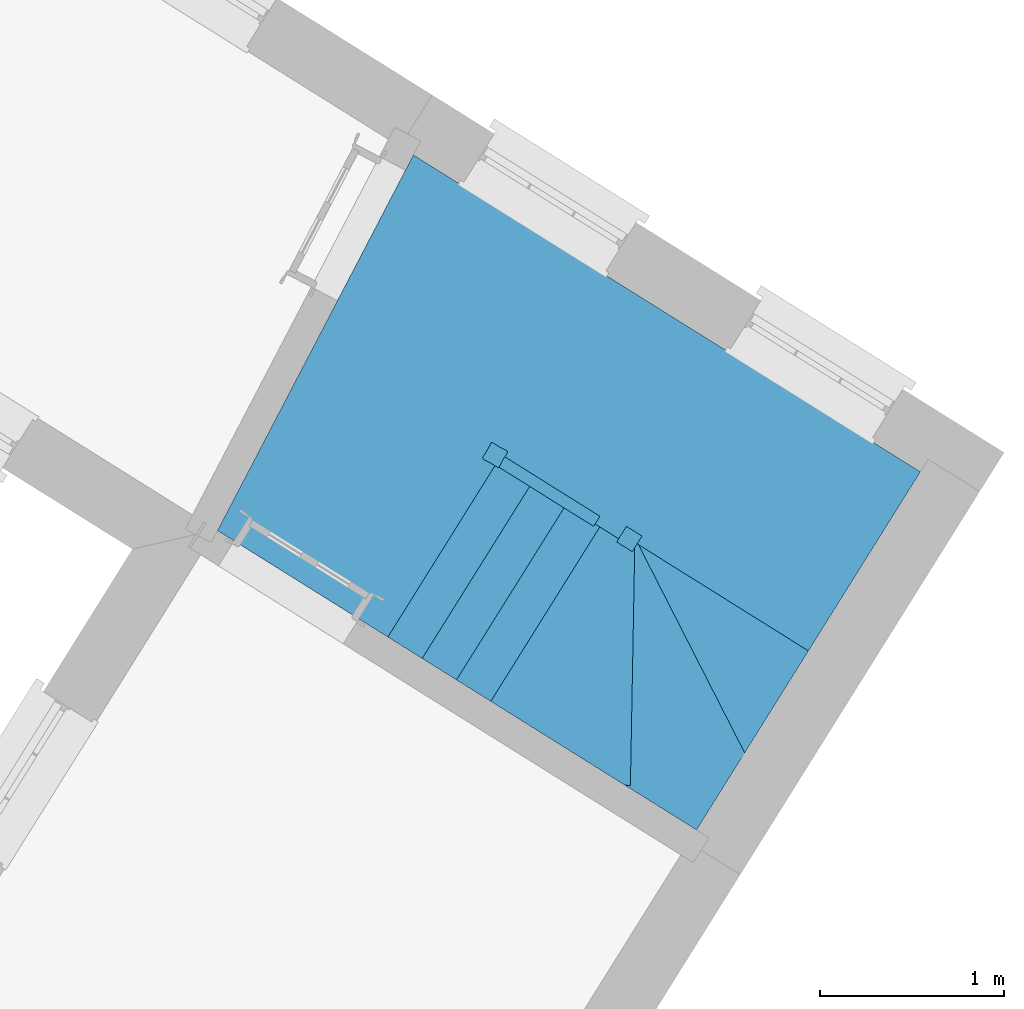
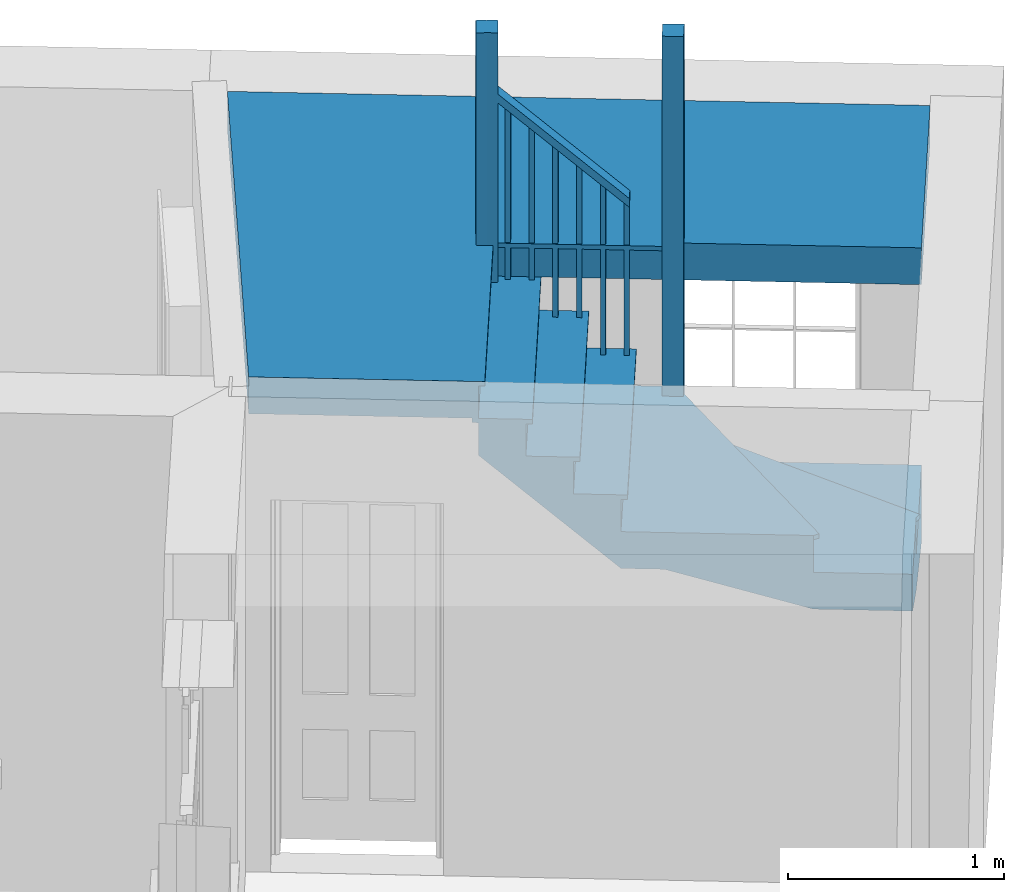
# One storey, part 4 of 4: 1 stair.
"""IFC4 building model written with IfcOpenShell, lengths in metres."""

from ifc_helpers import new_model, si_unit, frame, origin, origin_with_axes, place, context, subcontext, project, spatial, faceted_brep, element, save


model = new_model("IFC4")

# Units and contexts
model_context = context("Model", 3, world=origin_with_axes())
body_context = subcontext(model_context, "Body", "Model", "MODEL_VIEW")
ifc_project = project(units=[si_unit("PLANEANGLEUNIT", "RADIAN"), si_unit("MASSUNIT", "GRAM", prefix="KILO"), si_unit("FORCEUNIT", "NEWTON", prefix="KILO"), si_unit("LENGTHUNIT", "METRE"), si_unit("AREAUNIT", "SQUARE_METRE"), si_unit("VOLUMEUNIT", "CUBIC_METRE")], contexts=[model_context, model_context])

# Sites, building, storey
site_1_placement = place(None, origin_with_axes())
site_1 = spatial("IfcSite", under=ifc_project, at=site_1_placement, Name="Tamar")
site_2_placement = place(site_1_placement, origin_with_axes())
site_2 = spatial("IfcSite", under=site_1, at=site_2_placement, Name="Site plot-3", CompositionType="ELEMENT")
building_placement = place(None, origin_with_axes())
building = spatial("IfcBuilding", under=site_2, at=building_placement, Name="Building plot-3", CompositionType="ELEMENT")
storey_placement = place(None, frame((0.0, 0.0, 27.8), z_axis=(0.0, 0.0, 1.0), x_axis=(1.0, 0.0, 0.0)))
storey = spatial("IfcBuildingStorey", under=building, at=storey_placement, Name="plot-3 1", CompositionType="ELEMENT", Elevation=27.8)

# Stair
stair_placement = place(None, origin())
element("IfcStair", 1, at=stair_placement, inside=storey, Name="Stair", PredefinedType="NOTDEFINED", context=body_context, shape_type="Brep", body=[
    faceted_brep([(217.91361, 286.498894, 30.292308), (216.895579, 287.029978, 30.292308), (216.895579, 287.029978, 30.5), (217.91361, 286.498894, 30.5)], [[[0, 1, 2, 3]], [[1, 0, 3, 2]]]),
    faceted_brep([(217.93905, 286.482994, 30.475), (217.93905, 286.482994, 30.5), (217.91361, 286.498894, 30.475), (217.91361, 286.498894, 30.5)], [[[0, 1, 2]], [[1, 0, 2]], [[2, 1, 3]], [[1, 2, 3]]]),
    faceted_brep([(217.934815, 286.431438, 31.7), (217.981067, 286.520099, 31.7), (217.892406, 286.566351, 31.7), (217.846154, 286.47769, 31.7), (217.846154, 286.47769, 30.5), (217.892406, 286.566351, 30.5), (217.981067, 286.520099, 30.5), (217.934815, 286.431438, 30.5)], [[[0, 1, 2, 3]], [[4, 5, 6, 7]], [[7, 6, 1, 0]], [[6, 5, 2, 1]], [[5, 4, 3, 2]], [[4, 7, 0, 3]]]),
    faceted_brep([(217.91361, 286.498894, 30.5), (216.895579, 287.029978, 30.5), (216.404283, 286.088215, 30.5), (217.305017, 285.525215, 30.5), (217.305017, 285.525215, 30.292308), (216.404283, 286.088215, 30.292308), (216.895579, 287.029978, 30.292308), (217.91361, 286.498894, 30.292308)], [[[0, 1, 2, 3]], [[4, 5, 6, 7]], [[7, 6, 1, 0]], [[6, 5, 2, 1]], [[5, 4, 3, 2]], [[4, 7, 0, 3]]]),
    faceted_brep([(217.305017, 285.525215, 30.475), (217.330456, 285.509315, 30.475), (217.305017, 285.525215, 30.5), (217.93905, 286.482994, 30.475), (217.91361, 286.498894, 30.475), (217.91361, 286.498894, 30.5), (217.330456, 285.509315, 30.5), (217.93905, 286.482994, 30.5)], [[[0, 1, 2]], [[3, 4, 5]], [[1, 6, 2]], [[7, 3, 5]], [[2, 6, 7, 5]], [[0, 2, 5, 4]], [[1, 0, 4, 3]], [[6, 1, 3, 7]]]),
    faceted_brep([(217.934815, 286.431438, 30.5), (217.981067, 286.520099, 30.5), (217.892406, 286.566351, 30.5), (217.846154, 286.47769, 30.5), (217.846154, 286.47769, 30.0), (217.892406, 286.566351, 30.0), (217.981067, 286.520099, 30.0), (217.934815, 286.431438, 30.0)], [[[0, 1, 2, 3]], [[4, 5, 6, 7]], [[7, 6, 1, 0]], [[6, 5, 2, 1]], [[5, 4, 3, 2]], [[4, 7, 0, 3]]]),
    faceted_brep([(217.91361, 286.498894, 30.292308), (217.305017, 285.525215, 30.292308), (217.491573, 285.40861, 30.292308), (218.100166, 286.382289, 30.292308), (218.100166, 286.382289, 29.876923), (217.491573, 285.40861, 29.876923), (217.305017, 285.525215, 30.084615), (217.91361, 286.498894, 30.084615)], [[[0, 1, 2, 3]], [[4, 5, 6, 7]], [[7, 6, 1, 0]], [[1, 6, 5, 2]], [[5, 4, 3, 2]], [[3, 4, 7, 0]]]),
    faceted_brep([(217.517012, 285.392709, 30.267308), (217.517012, 285.392709, 30.292308), (217.491573, 285.40861, 30.267308), (217.279578, 285.541116, 30.292308), (217.279578, 285.541116, 30.267308), (217.305017, 285.525215, 30.267308), (217.491573, 285.40861, 30.292308), (217.305017, 285.525215, 30.292308), (218.141506, 286.391827, 30.292308), (218.100166, 286.382289, 30.292308), (218.100166, 286.382289, 30.267308), (218.141506, 286.391827, 30.267308), (217.904072, 286.540235, 30.292308), (217.91361, 286.498894, 30.292308), (217.91361, 286.498894, 30.267308), (217.904072, 286.540235, 30.267308)], [[[0, 1, 2]], [[3, 4, 5]], [[2, 1, 6]], [[3, 5, 7]], [[6, 1, 8, 9]], [[2, 6, 9, 10]], [[0, 2, 10, 11]], [[1, 0, 11, 8]], [[9, 8, 12, 13]], [[10, 9, 13, 14]], [[11, 10, 14, 15]], [[8, 11, 15, 12]], [[13, 12, 3, 7]], [[14, 13, 7, 5]], [[15, 14, 5, 4]], [[12, 15, 4, 3]]]),
    faceted_brep([(218.100166, 286.382289, 31.192308), (218.078967, 286.395539, 31.192308), (218.065716, 286.37434, 31.192308), (218.086916, 286.361089, 31.192308), (218.086916, 286.361089, 30.292308), (218.065716, 286.37434, 30.292308), (218.078967, 286.395539, 30.292308), (218.100166, 286.382289, 30.292308)], [[[0, 1, 2, 3]], [[4, 5, 6, 7]], [[7, 6, 1, 0]], [[6, 5, 2, 1]], [[5, 4, 3, 2]], [[4, 7, 0, 3]]]),
    faceted_brep([(218.006888, 286.440591, 31.296154), (217.985689, 286.453842, 31.296154), (217.972438, 286.432643, 31.296154), (217.993638, 286.419392, 31.296154), (217.993638, 286.419392, 30.292308), (217.972438, 286.432643, 30.292308), (217.985689, 286.453842, 30.292308), (218.006888, 286.440591, 30.292308)], [[[0, 1, 2, 3]], [[4, 5, 6, 7]], [[7, 6, 1, 0]], [[6, 5, 2, 1]], [[5, 4, 3, 2]], [[4, 7, 0, 3]]]),
    faceted_brep([(218.076315, 286.344129, 31.142308), (218.110767, 286.399248, 31.142308), (218.110767, 286.399248, 31.192308), (218.076315, 286.344129, 31.192308), (217.924211, 286.515854, 31.35), (217.889759, 286.460735, 31.35), (217.889759, 286.460735, 31.4), (217.924211, 286.515854, 31.4)], [[[0, 1, 2, 3]], [[4, 5, 6, 7]], [[0, 5, 4, 1]], [[3, 2, 7, 6]], [[0, 3, 6, 5]], [[2, 1, 4, 7]]]),
    faceted_brep([(218.100166, 286.382289, 30.084615), (217.491573, 285.40861, 30.084615), (217.678129, 285.292004, 30.084615), (218.286722, 286.265683, 30.084615), (218.286722, 286.265683, 29.669231), (217.678129, 285.292004, 29.669231), (217.491573, 285.40861, 29.876923), (218.100166, 286.382289, 29.876923)], [[[0, 1, 2, 3]], [[4, 5, 6, 7]], [[7, 6, 1, 0]], [[1, 6, 5, 2]], [[5, 4, 3, 2]], [[3, 4, 7, 0]]]),
    faceted_brep([(217.703568, 285.276103, 30.059615), (217.703568, 285.276103, 30.084615), (217.678129, 285.292004, 30.059615), (217.466133, 285.42451, 30.084615), (217.466133, 285.42451, 30.059615), (217.491573, 285.40861, 30.059615), (217.678129, 285.292004, 30.084615), (217.491573, 285.40861, 30.084615), (218.328062, 286.275221, 30.084615), (218.286722, 286.265683, 30.084615), (218.286722, 286.265683, 30.059615), (218.328062, 286.275221, 30.059615), (218.090628, 286.423629, 30.084615), (218.100166, 286.382289, 30.084615), (218.100166, 286.382289, 30.059615), (218.090628, 286.423629, 30.059615)], [[[0, 1, 2]], [[3, 4, 5]], [[2, 1, 6]], [[3, 5, 7]], [[6, 1, 8, 9]], [[2, 6, 9, 10]], [[0, 2, 10, 11]], [[1, 0, 11, 8]], [[9, 8, 12, 13]], [[10, 9, 13, 14]], [[11, 10, 14, 15]], [[8, 11, 15, 12]], [[13, 12, 3, 7]], [[14, 13, 7, 5]], [[15, 14, 5, 4]], [[12, 15, 4, 3]]]),
    faceted_brep([(218.286722, 286.265683, 30.984615), (218.265523, 286.278933, 30.984615), (218.252272, 286.257734, 30.984615), (218.273471, 286.244483, 30.984615), (218.273471, 286.244483, 30.084615), (218.252272, 286.257734, 30.084615), (218.265523, 286.278933, 30.084615), (218.286722, 286.265683, 30.084615)], [[[0, 1, 2, 3]], [[4, 5, 6, 7]], [[7, 6, 1, 0]], [[6, 5, 2, 1]], [[5, 4, 3, 2]], [[4, 7, 0, 3]]]),
    faceted_brep([(218.193444, 286.323986, 31.088462), (218.172245, 286.337236, 31.088462), (218.158994, 286.316037, 31.088462), (218.180193, 286.302786, 31.088462), (218.180193, 286.302786, 30.084615), (218.158994, 286.316037, 30.084615), (218.172245, 286.337236, 30.084615), (218.193444, 286.323986, 30.084615)], [[[0, 1, 2, 3]], [[4, 5, 6, 7]], [[7, 6, 1, 0]], [[6, 5, 2, 1]], [[5, 4, 3, 2]], [[4, 7, 0, 3]]]),
    faceted_brep([(218.262871, 286.227524, 30.934615), (218.297323, 286.282642, 30.934615), (218.297323, 286.282642, 30.984615), (218.262871, 286.227524, 30.984615), (218.110767, 286.399248, 31.142308), (218.076315, 286.344129, 31.142308), (218.076315, 286.344129, 31.192308), (218.110767, 286.399248, 31.192308)], [[[0, 1, 2, 3]], [[4, 5, 6, 7]], [[0, 5, 4, 1]], [[3, 2, 7, 6]], [[0, 3, 6, 5]], [[2, 1, 4, 7]]]),
    faceted_brep([(218.286722, 286.265683, 29.876923), (217.678129, 285.292004, 29.876923), (217.864684, 285.175398, 29.876923), (218.473278, 286.149077, 29.876923), (218.473278, 286.149077, 29.461538), (217.864684, 285.175398, 29.461538), (217.678129, 285.292004, 29.669231), (218.286722, 286.265683, 29.669231)], [[[0, 1, 2, 3]], [[4, 5, 6, 7]], [[7, 6, 1, 0]], [[1, 6, 5, 2]], [[5, 4, 3, 2]], [[3, 4, 7, 0]]]),
    faceted_brep([(217.864684, 285.175398, 29.851923), (217.890124, 285.159497, 29.851923), (217.864684, 285.175398, 29.876923), (217.652689, 285.307905, 29.851923), (217.678129, 285.292004, 29.851923), (217.678129, 285.292004, 29.876923), (217.890124, 285.159497, 29.876923), (217.652689, 285.307905, 29.876923), (218.514618, 286.158616, 29.876923), (218.473278, 286.149077, 29.876923), (218.473278, 286.149077, 29.851923), (218.514618, 286.158616, 29.851923), (218.277183, 286.307023, 29.876923), (218.286722, 286.265683, 29.876923), (218.286722, 286.265683, 29.851923), (218.277183, 286.307023, 29.851923)], [[[0, 1, 2]], [[3, 4, 5]], [[1, 6, 2]], [[7, 3, 5]], [[2, 6, 8, 9]], [[0, 2, 9, 10]], [[1, 0, 10, 11]], [[6, 1, 11, 8]], [[9, 8, 12, 13]], [[10, 9, 13, 14]], [[11, 10, 14, 15]], [[8, 11, 15, 12]], [[13, 12, 7, 5]], [[14, 13, 5, 4]], [[15, 14, 4, 3]], [[12, 15, 3, 7]]]),
    faceted_brep([(218.473278, 286.149077, 30.776923), (218.452078, 286.162328, 30.776923), (218.438828, 286.141128, 30.776923), (218.460027, 286.127877, 30.776923), (218.460027, 286.127877, 29.876923), (218.438828, 286.141128, 29.876923), (218.452078, 286.162328, 29.876923), (218.473278, 286.149077, 29.876923)], [[[0, 1, 2, 3]], [[4, 5, 6, 7]], [[7, 6, 1, 0]], [[6, 5, 2, 1]], [[5, 4, 3, 2]], [[4, 7, 0, 3]]]),
    faceted_brep([(218.38, 286.20738, 30.880769), (218.3588, 286.22063, 30.880769), (218.34555, 286.199431, 30.880769), (218.366749, 286.18618, 30.880769), (218.366749, 286.18618, 29.876923), (218.34555, 286.199431, 29.876923), (218.3588, 286.22063, 29.876923), (218.38, 286.20738, 29.876923)], [[[0, 1, 2, 3]], [[4, 5, 6, 7]], [[7, 6, 1, 0]], [[6, 5, 2, 1]], [[5, 4, 3, 2]], [[4, 7, 0, 3]]]),
    faceted_brep([(218.449427, 286.110918, 30.726923), (218.483878, 286.166037, 30.726923), (218.483878, 286.166037, 30.776923), (218.449427, 286.110918, 30.776923), (218.297323, 286.282642, 30.934615), (218.262871, 286.227524, 30.934615), (218.262871, 286.227524, 30.984615), (218.297323, 286.282642, 30.984615)], [[[0, 1, 2, 3]], [[4, 5, 6, 7]], [[0, 5, 4, 1]], [[3, 2, 7, 6]], [[0, 3, 6, 5]], [[2, 1, 4, 7]]]),
    faceted_brep([(218.473278, 286.149077, 29.669231), (217.864684, 285.175398, 29.669231), (218.03521, 285.068812, 29.669231), (218.643804, 286.042491, 29.669231), (218.643804, 286.042491, 29.461538), (218.03521, 285.068812, 29.461538), (217.864684, 285.175398, 29.461538), (218.473278, 286.149077, 29.461538)], [[[0, 1, 2, 3]], [[4, 5, 6, 7]], [[7, 6, 1, 0]], [[6, 5, 2, 1]], [[5, 4, 3, 2]], [[4, 7, 0, 3]]]),
    faceted_brep([(218.643804, 286.042491, 29.644231), (218.659704, 286.06793, 29.644231), (218.643804, 286.042491, 29.669231), (218.489179, 286.174516, 29.644231), (218.473278, 286.149077, 29.644231), (218.473278, 286.149077, 29.669231), (218.659704, 286.06793, 29.669231), (218.489179, 286.174516, 29.669231)], [[[0, 1, 2]], [[3, 4, 5]], [[1, 6, 2]], [[7, 3, 5]], [[2, 6, 7, 5]], [[0, 2, 5, 4]], [[1, 0, 4, 3]], [[6, 1, 3, 7]]]),
    faceted_brep([(218.712704, 286.058388, 30.869231), (218.627906, 286.111391, 30.869231), (218.574903, 286.026593, 30.869231), (218.659701, 285.97359, 30.869231), (218.659701, 285.97359, 29.669231), (218.574903, 286.026593, 29.669231), (218.627906, 286.111391, 29.669231), (218.712704, 286.058388, 29.669231)], [[[0, 1, 2, 3]], [[4, 5, 6, 7]], [[7, 6, 1, 0]], [[6, 5, 2, 1]], [[5, 4, 3, 2]], [[4, 7, 0, 3]]]),
    faceted_brep([(218.03521, 285.068812, 29.669231), (218.619418, 284.703656, 29.669231), (218.643804, 286.042491, 29.669231), (218.643804, 286.042491, 29.253846), (218.619418, 284.703656, 29.253846), (218.03521, 285.068812, 29.461538)], [[[0, 1, 2]], [[3, 4, 5]], [[0, 5, 4, 1]], [[4, 3, 2, 1]], [[2, 3, 5, 0]]]),
    faceted_brep([(218.649413, 284.703109, 29.644231), (218.649413, 284.703109, 29.669231), (218.619418, 284.703656, 29.644231), (218.673799, 286.041944, 29.669231), (218.673799, 286.041944, 29.644231), (218.643804, 286.042491, 29.644231), (218.619418, 284.703656, 29.669231), (218.643804, 286.042491, 29.669231)], [[[0, 1, 2]], [[3, 4, 5]], [[2, 1, 6]], [[3, 5, 7]], [[6, 1, 3, 7]], [[2, 6, 7, 5]], [[0, 2, 5, 4]], [[1, 0, 4, 3]]]),
    faceted_brep([(218.619418, 284.703656, 29.461538), (219.008889, 284.460218, 29.461538), (219.252327, 284.84969, 29.461538), (218.643804, 286.042491, 29.461538), (218.643804, 286.042491, 29.046154), (219.252327, 284.84969, 29.046154), (219.008889, 284.460218, 29.253846), (218.619418, 284.703656, 29.253846)], [[[0, 1, 2, 3]], [[4, 5, 6, 7]], [[7, 6, 1, 0]], [[1, 6, 5, 2]], [[5, 4, 3, 2]], [[3, 4, 7, 0]]]),
    faceted_brep([(219.27905, 284.863323, 29.436538), (219.27905, 284.863323, 29.461538), (219.252327, 284.84969, 29.436538), (218.670527, 286.056124, 29.461538), (218.670527, 286.056124, 29.436538), (218.643804, 286.042491, 29.436538), (219.252327, 284.84969, 29.461538), (218.643804, 286.042491, 29.461538)], [[[0, 1, 2]], [[3, 4, 5]], [[2, 1, 6]], [[3, 5, 7]], [[6, 1, 3, 7]], [[2, 6, 7, 5]], [[0, 2, 5, 4]], [[1, 0, 4, 3]]]),
    faceted_brep([(219.252327, 284.84969, 29.253846), (219.617483, 285.433897, 29.253846), (218.643804, 286.042491, 29.253846), (218.643804, 286.042491, 28.838462), (219.617483, 285.433897, 28.838462), (219.252327, 284.84969, 29.046154)], [[[0, 1, 2]], [[3, 4, 5]], [[0, 5, 4, 1]], [[4, 3, 2, 1]], [[2, 3, 5, 0]]]),
    faceted_brep([(219.617483, 285.433897, 29.228846), (219.633383, 285.459337, 29.228846), (219.617483, 285.433897, 29.253846), (218.659704, 286.06793, 29.228846), (218.643804, 286.042491, 29.228846), (218.643804, 286.042491, 29.253846), (219.633383, 285.459337, 29.253846), (218.659704, 286.06793, 29.253846)], [[[0, 1, 2]], [[3, 4, 5]], [[1, 6, 2]], [[7, 3, 5]], [[2, 6, 7, 5]], [[0, 2, 5, 4]], [[1, 0, 4, 3]], [[6, 1, 3, 7]]]),
    faceted_brep([(218.712704, 286.058388, 29.669231), (218.627906, 286.111391, 29.669231), (218.574903, 286.026593, 29.669231), (218.659701, 285.97359, 29.669231), (218.659701, 285.97359, 28.753846), (218.574903, 286.026593, 28.753846), (218.627906, 286.111391, 28.753846), (218.712704, 286.058388, 28.753846)], [[[0, 1, 2, 3]], [[4, 5, 6, 7]], [[7, 6, 1, 0]], [[6, 5, 2, 1]], [[5, 4, 3, 2]], [[4, 7, 0, 3]]]),
    faceted_brep([(218.643804, 286.042491, 28.838462), (219.617483, 285.433897, 28.838462), (219.617483, 285.433897, 29.046154), (218.643804, 286.042491, 29.046154)], [[[0, 1, 2, 3]], [[1, 0, 3, 2]]]),
    faceted_brep([(218.643804, 286.042491, 29.021154), (218.619392, 286.059928, 29.021154), (218.643804, 286.042491, 29.046154), (218.619392, 286.059928, 29.046154)], [[[0, 1, 2]], [[1, 0, 2]], [[1, 3, 2]], [[3, 1, 2]]]),
    faceted_brep([(218.627906, 286.111391, 31.7), (218.574903, 286.026593, 31.7), (218.659701, 285.97359, 31.7), (218.712704, 286.058388, 31.7), (218.712704, 286.058388, 30.5), (218.659701, 285.97359, 30.5), (218.574903, 286.026593, 30.5), (218.627906, 286.111391, 30.5)], [[[0, 1, 2, 3]], [[4, 5, 6, 7]], [[7, 6, 1, 0]], [[6, 5, 2, 1]], [[5, 4, 3, 2]], [[4, 7, 0, 3]]]),
    faceted_brep([(218.643804, 286.042491, 30.5), (219.617483, 285.433897, 30.5), (220.226076, 286.407576, 30.5), (219.252397, 287.01617, 30.5), (219.252397, 287.01617, 30.292308), (220.226076, 286.407576, 30.292308), (219.617483, 285.433897, 30.292308), (218.643804, 286.042491, 30.292308)], [[[0, 1, 2, 3]], [[4, 5, 6, 7]], [[7, 6, 1, 0]], [[6, 5, 2, 1]], [[5, 4, 3, 2]], [[4, 7, 0, 3]]]),
    faceted_brep([(219.252397, 287.01617, 30.475), (219.226958, 287.03207, 30.475), (219.252397, 287.01617, 30.5), (218.618364, 286.058391, 30.475), (218.643804, 286.042491, 30.475), (218.643804, 286.042491, 30.5), (219.226958, 287.03207, 30.5), (218.618364, 286.058391, 30.5)], [[[0, 1, 2]], [[3, 4, 5]], [[1, 6, 2]], [[7, 3, 5]], [[2, 6, 7, 5]], [[0, 2, 5, 4]], [[1, 0, 4, 3]], [[6, 1, 3, 7]]]),
    faceted_brep([(218.627906, 286.111391, 30.5), (218.574903, 286.026593, 30.5), (218.659701, 285.97359, 30.5), (218.712704, 286.058388, 30.5), (218.712704, 286.058388, 30.0), (218.659701, 285.97359, 30.0), (218.574903, 286.026593, 30.0), (218.627906, 286.111391, 30.0)], [[[0, 1, 2, 3]], [[4, 5, 6, 7]], [[7, 6, 1, 0]], [[6, 5, 2, 1]], [[5, 4, 3, 2]], [[4, 7, 0, 3]]]),
    faceted_brep([(218.643804, 286.042491, 30.5), (219.252397, 287.01617, 30.5), (218.522204, 287.472573, 30.5), (217.91361, 286.498894, 30.5), (217.91361, 286.498894, 30.292308), (218.522204, 287.472573, 30.292308), (219.252397, 287.01617, 30.292308), (218.643804, 286.042491, 30.292308)], [[[0, 1, 2, 3]], [[4, 5, 6, 7]], [[7, 6, 1, 0]], [[6, 5, 2, 1]], [[5, 4, 3, 2]], [[4, 7, 0, 3]]]),
    faceted_brep([(217.91361, 286.498894, 30.475), (217.89771, 286.473455, 30.475), (217.91361, 286.498894, 30.5), (218.627903, 286.017051, 30.475), (218.643804, 286.042491, 30.475), (218.643804, 286.042491, 30.5), (217.89771, 286.473455, 30.5), (218.627903, 286.017051, 30.5)], [[[0, 1, 2]], [[3, 4, 5]], [[1, 6, 2]], [[7, 3, 5]], [[2, 6, 7, 5]], [[0, 2, 5, 4]], [[1, 0, 4, 3]], [[6, 1, 3, 7]]]),
    faceted_brep([(217.84471, 286.482997, 31.7), (217.929508, 286.429994, 31.7), (217.982511, 286.514792, 31.7), (217.897713, 286.567795, 31.7), (217.897713, 286.567795, 30.5), (217.982511, 286.514792, 30.5), (217.929508, 286.429994, 30.5), (217.84471, 286.482997, 30.5)], [[[0, 1, 2, 3]], [[4, 5, 6, 7]], [[7, 6, 1, 0]], [[6, 5, 2, 1]], [[5, 4, 3, 2]], [[4, 7, 0, 3]]]),
    faceted_brep([(217.91361, 286.498894, 30.5), (218.522204, 287.472573, 30.5), (217.469672, 288.130453, 30.5), (216.895579, 287.029978, 30.5), (216.895579, 287.029978, 30.292308), (217.469672, 288.130453, 30.292308), (218.522204, 287.472573, 30.292308), (217.91361, 286.498894, 30.292308)], [[[0, 1, 2, 3]], [[4, 5, 6, 7]], [[7, 6, 1, 0]], [[6, 5, 2, 1]], [[5, 4, 3, 2]], [[4, 7, 0, 3]]]),
    faceted_brep([(216.895579, 287.029978, 30.475), (216.881704, 287.003379, 30.475), (216.895579, 287.029978, 30.5), (217.899735, 286.472296, 30.475), (217.91361, 286.498894, 30.475), (217.91361, 286.498894, 30.5), (216.881704, 287.003379, 30.5), (217.899735, 286.472296, 30.5)], [[[0, 1, 2]], [[3, 4, 5]], [[1, 6, 2]], [[7, 3, 5]], [[2, 6, 7, 5]], [[0, 2, 5, 4]], [[1, 0, 4, 3]], [[6, 1, 3, 7]]]),
    faceted_brep([(217.84471, 286.482997, 30.5), (217.929508, 286.429994, 30.5), (217.982511, 286.514792, 30.5), (217.897713, 286.567795, 30.5), (217.897713, 286.567795, 30.0), (217.982511, 286.514792, 30.0), (217.929508, 286.429994, 30.0), (217.84471, 286.482997, 30.0)], [[[0, 1, 2, 3]], [[4, 5, 6, 7]], [[7, 6, 1, 0]], [[6, 5, 2, 1]], [[5, 4, 3, 2]], [[4, 7, 0, 3]]]),
])

save(model, "model.ifc")
